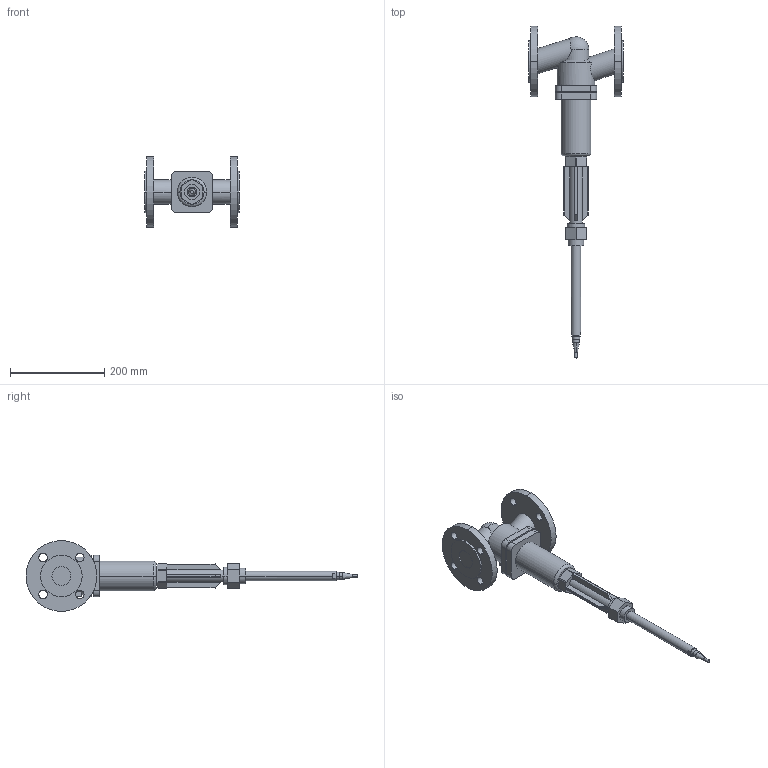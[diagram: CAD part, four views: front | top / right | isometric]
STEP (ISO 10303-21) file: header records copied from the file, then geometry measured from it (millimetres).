
FILE_DESCRIPTION(('CoCreate Modeling STEP Export'),'2;1');
FILE_NAME('c000001246.stp','2011-09-22T10:48:51',(''),(''),'CoCreate Modeling STEP processor for AP214 (Solid Model)','CoCreate Modeling 17.0 01-Apr-2010 (C) Parametric Technology GmbH','');
FILE_SCHEMA(('AUTOMOTIVE_DESIGN { 1 0 10303 214 1 1 1 1 }'));
Length unit declared in the file: millimetre
Products named in the file (1): 1
Bounding box: 200 x 702.94 x 150 mm (x, y, z)
Volume: 1983450.3 mm3; surface area: 221383.3 mm2
Topology: 1 solids, 1 shells, 170 faces, 424 edges, 275 vertices
Faces by surface type: plane 80, cylinder 76, cone 10, torus 2, sphere 2
Entity records: 7590 total; most frequent: CARTESIAN_POINT 2377, ORIENTED_EDGE 844, DIRECTION 727, EDGE_CURVE 422, VERTEX_POINT 275, AXIS2_PLACEMENT_3D 253, VECTOR 221, LINE 221
